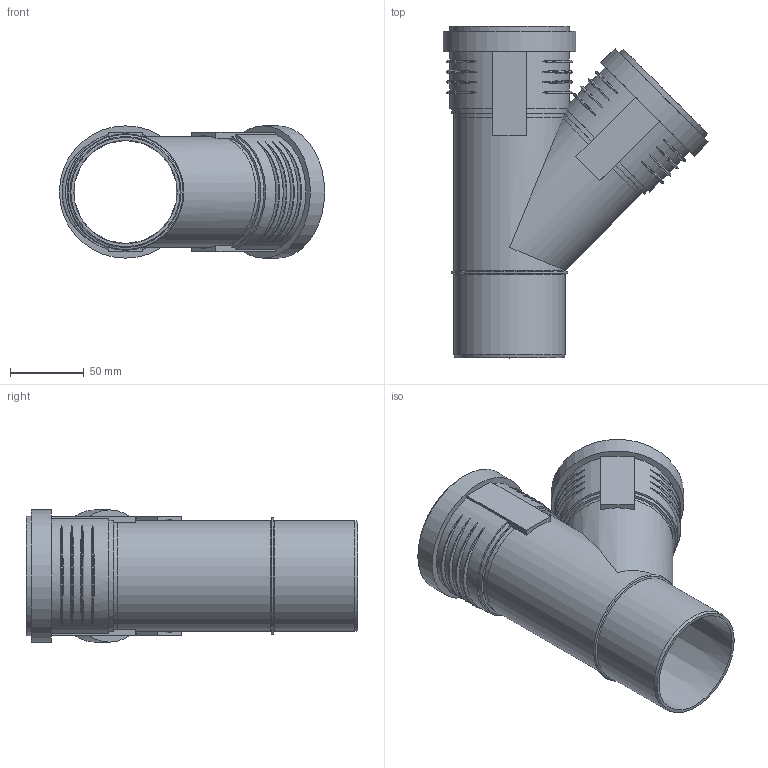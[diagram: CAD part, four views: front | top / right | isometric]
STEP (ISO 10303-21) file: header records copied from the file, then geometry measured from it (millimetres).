
FILE_DESCRIPTION(/* description */ (''),/* implementation_level */ '2;1');
FILE_NAME(/* name */ 'Z:\Geberit\Export\NewStep\390333.stp',/* time_stamp */ '2014-04-02T08:11:51+02:00',/* author */ ('ML'),/* organization */ (''),/* preprocessor_version */ 'ST-DEVELOPER v15.2',/* originating_system */ 'Autodesk Inventor 2014',/* authorisation */ '');
FILE_SCHEMA (('AUTOMOTIVE_DESIGN { 1 0 10303 214 3 1 1 }'));
Length unit declared in the file: millimetre
Products named in the file (4): 861341; 861402; 861402_1; 390333
Bounding box: 179.65 x 224.7 x 89.6 mm (x, y, z)
Volume: 206375.9 mm3; surface area: 171642.1 mm2
Topology: 3 solids, 3 shells, 126 faces, 313 edges, 218 vertices
Faces by surface type: torus 50, plane 39, cylinder 30, cone 7
Full cylindrical faces by diameter (mm): 70.2 x2, 71.2 x1, 75.2 x5, 76.2 x4, 81.2 x2, 84.6 x2, 89.6 x2
Entity records: 5204 total; most frequent: CARTESIAN_POINT 2234, ORIENTED_EDGE 548, DIRECTION 542, EDGE_CURVE 274, AXIS2_PLACEMENT_3D 234, VERTEX_POINT 207, EDGE_LOOP 187, STYLED_ITEM 126
